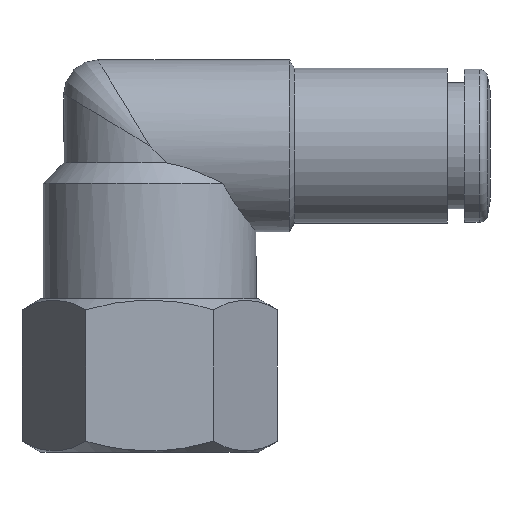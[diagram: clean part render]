
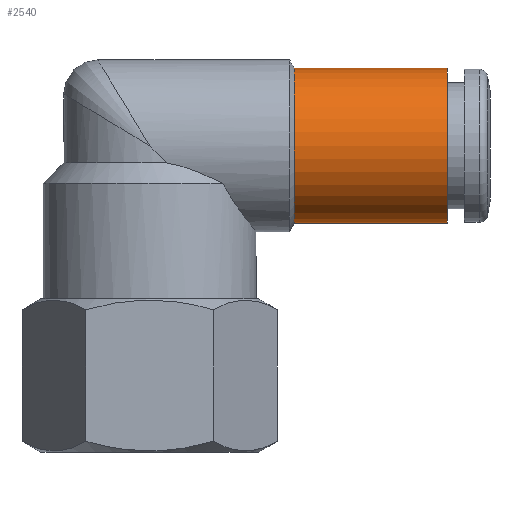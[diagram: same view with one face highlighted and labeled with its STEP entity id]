
A CAD part, front view. The second image highlights one B-rep face of the part: STEP entity #2540.
In plain terms, the highlighted cylindrical face has radius 4.55 mm (diameter 9.1 mm), a full revolution.
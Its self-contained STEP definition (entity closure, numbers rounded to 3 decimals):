
#2540=ADVANCED_FACE('', (#2550,#2560), #2570, .T.);
#6550=AXIS2_PLACEMENT_3D('Ax2Pl3d', #6560, #6570, #6580);
#7510=AXIS2_PLACEMENT_3D('Ax2Pl3d', #7520, #7530, #7540);
#7550=AXIS2_PLACEMENT_3D('Ax2Pl3d', #7560, #7570, #7580);
#6560=CARTESIAN_POINT('HicPkt', (25.248,9.497,
12.079));
#21250=CARTESIAN_POINT('', (25.248,9.497,16.629));
#7520=CARTESIAN_POINT('HicPkt', (16.248,9.497,
12.079));
#21390=CARTESIAN_POINT('', (16.248,9.497,16.629));
#7560=CARTESIAN_POINT('HicPkt', (16.248,9.497,
12.079));
#21810=CIRCLE('Circle', #6550, 4.55);
#21910=CIRCLE('Circle', #7510, 4.55);
#2570=CYLINDRICAL_SURFACE('Zyl', #7550, 4.55);
#6570=DIRECTION('Axis', (-1.,0.,0.))
;
#6580=DIRECTION('RefDirection', (0.,
0.,-1.));
#7530=DIRECTION('Axis', (-1.,0.,0.))
;
#7540=DIRECTION('RefDirection', (0.,
0.,-1.));
#7570=DIRECTION('Axis', (1.,0.,0.));
#7580=DIRECTION('RefDirection', (0.,0.,-1.));
#25580=EDGE_CURVE('', #25590, #25590, #21810, .T.);
#25960=EDGE_CURVE('', #25970, #25970, #21910, .T.);
#28650=EDGE_LOOP('Edge_loop', (#28660));
#28670=EDGE_LOOP('Edge_loop', (#28680));
#2560=FACE_BOUND('', #28670, .T.);
#2550=FACE_OUTER_BOUND('Face_outer_bound', #28650, .T.);
#28660=ORIENTED_EDGE('', *, *, #25580, .T.);
#28680=ORIENTED_EDGE('', *, *, #25960, .F.);
#25590=VERTEX_POINT('', #21250);
#25970=VERTEX_POINT('', #21390);
